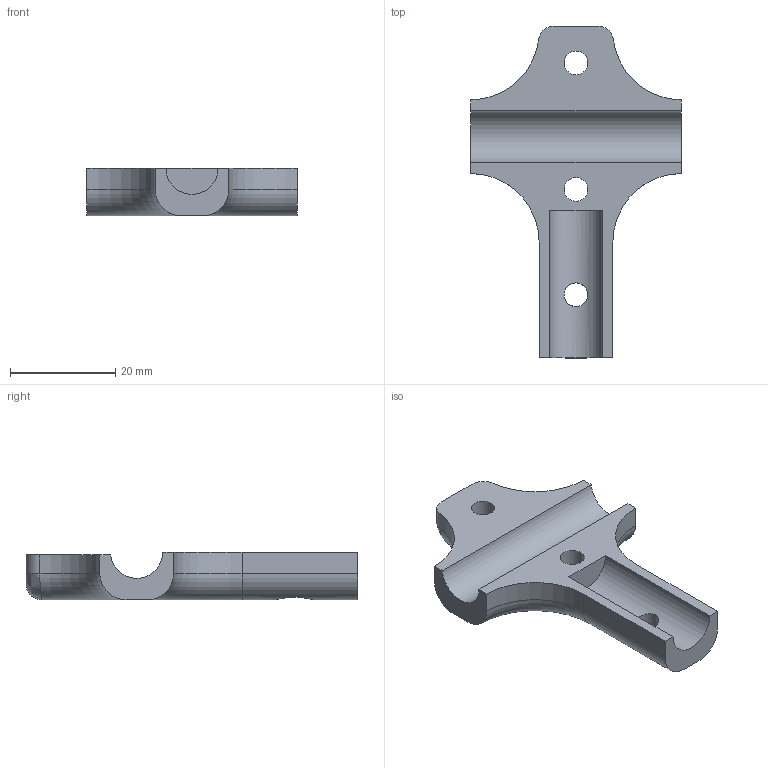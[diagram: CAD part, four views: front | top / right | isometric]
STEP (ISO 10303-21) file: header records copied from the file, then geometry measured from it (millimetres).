
FILE_DESCRIPTION((''),'2;1');
FILE_NAME('D:\Data\Documents\Studium\10.Semester\Studienarbeit\Design\Winkel Oberseite.stp','2016-07-07T12:37:42',('Fabian'),(''),'Autodesk Inventor 2013','Autodesk Inventor 2013','');
FILE_SCHEMA(('AUTOMOTIVE_DESIGN { 1 0 10303 214 1 1 1 1 }'));
Length unit declared in the file: millimetre
Products named in the file (1): Winkel Oberseite
Bounding box: 40 x 63 x 9 mm (x, y, z)
Volume: 8541 mm3; surface area: 4533.7 mm2
Topology: 1 solids, 1 shells, 41 faces, 108 edges, 68 vertices
Faces by surface type: cylinder 14, plane 11, bspline 8, torus 5, cone 3
Full cylindrical faces by diameter (mm): 4.5 x3
Entity records: 1511 total; most frequent: CARTESIAN_POINT 510, ORIENTED_EDGE 204, DIRECTION 193, EDGE_CURVE 102, AXIS2_PLACEMENT_3D 74, VERTEX_POINT 67, EDGE_LOOP 51, VECTOR 45
